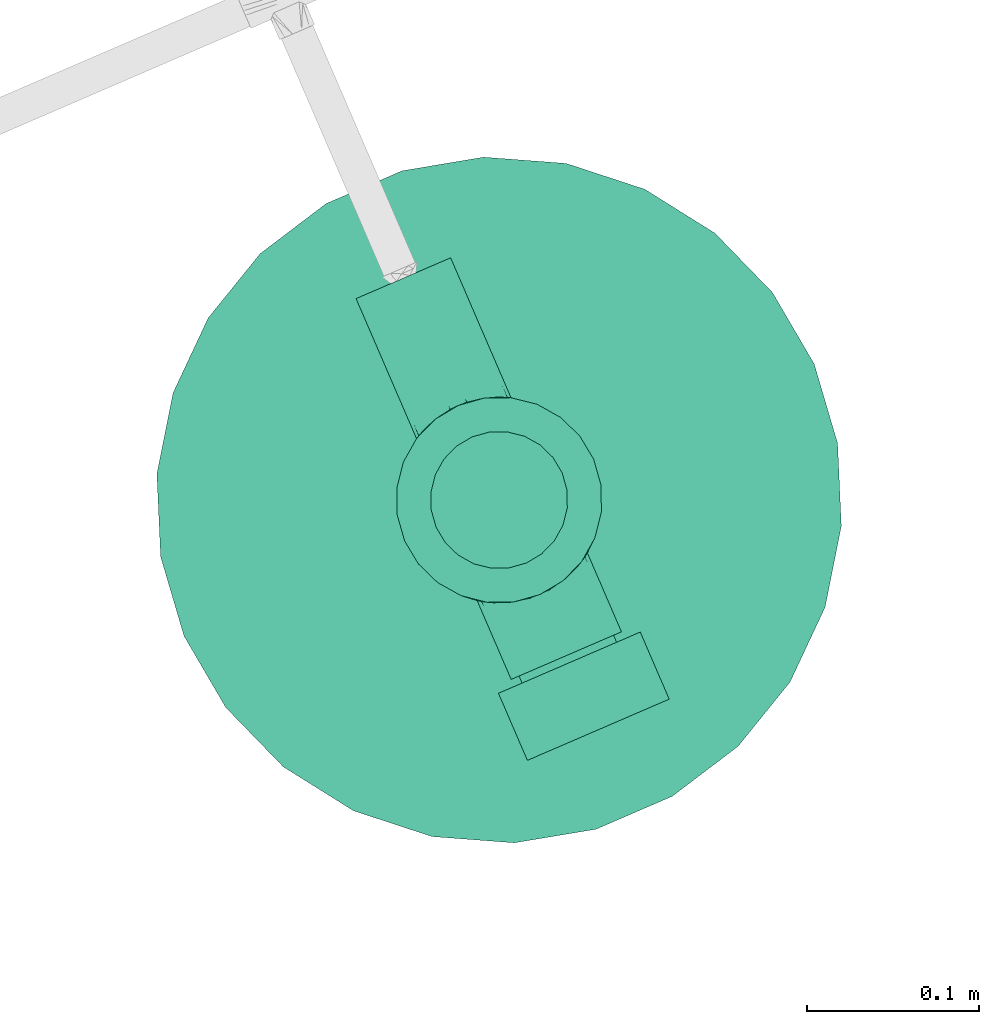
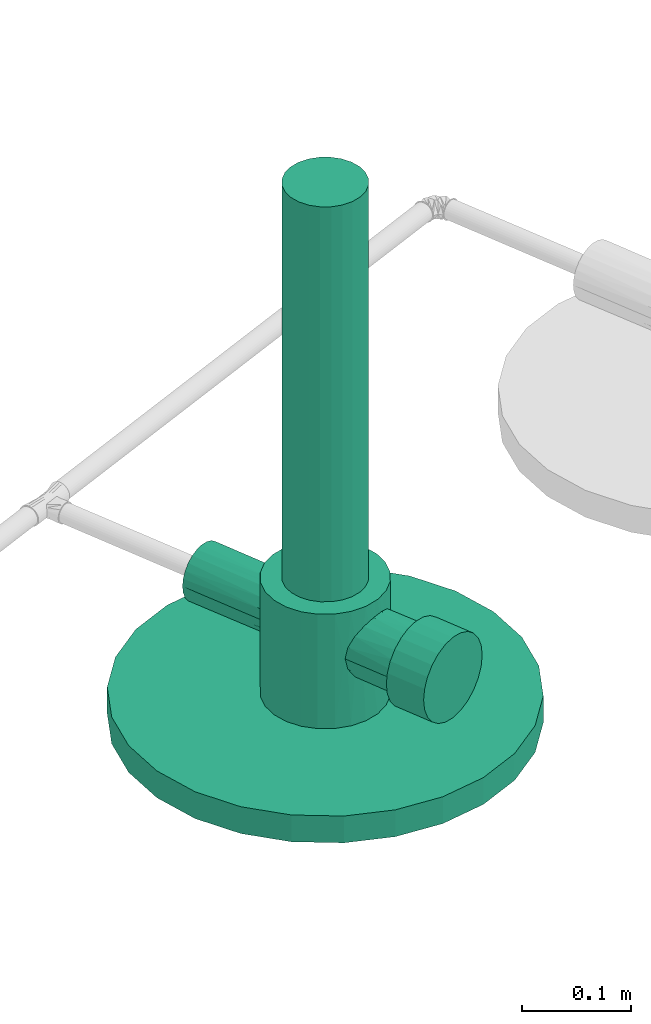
# One storey, part 14 of 26: 1 burner.
"""IFC4 building model written with IfcOpenShell, lengths in metres."""

from ifc_helpers import new_model, entity, si_unit, converted_unit, derived_unit, direction, frame, origin, place, context, subcontext, project, spatial, polygons, source, transform, mapped, material, type_object, type_shapes, element, save


model = new_model("IFC4")

# Units and contexts
model_context = context("Model", 3, precision=1e-05, world=origin(), true_north=direction((6.12323399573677e-17, 1.0)))
body_context = subcontext(model_context, "Body", "Model", "MODEL_VIEW")
ifc_project = project(units=[si_unit("LENGTHUNIT", "METRE"), si_unit("AREAUNIT", "SQUARE_METRE"), si_unit("VOLUMEUNIT", "CUBIC_METRE"), si_unit("PRESSUREUNIT", "PASCAL"), derived_unit("VOLUMETRICFLOWRATEUNIT", [(si_unit("LENGTHUNIT", "METRE", prefix="DECI"), 3), (si_unit("TIMEUNIT", "SECOND"), -1)]), converted_unit("PLANEANGLEUNIT", "DEGREE", entity("IfcPlaneAngleMeasure", 0.0174532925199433), si_unit("PLANEANGLEUNIT", "RADIAN"), dimensions=[0, 0, 0, 0, 0, 0, 0])], contexts=[model_context])

# Site, building, storey
site_placement = place(None, origin())
site = spatial("IfcSite", under=ifc_project, at=site_placement, Name="Default", CompositionType="ELEMENT")
building_placement = place(site_placement, frame((24.575451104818, -55.896759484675, 317.15), z_axis=(0.0, 0.0, 1.0), x_axis=(-0.396377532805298, 0.918087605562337, 0.0)))
building = spatial("IfcBuilding", under=site, at=building_placement, CompositionType="ELEMENT")
storey_placement = place(building_placement, origin())
storey = spatial("IfcBuildingStorey", under=building, at=storey_placement, Name="Nivel 1", CompositionType="ELEMENT", Elevation=0.0)

# Burner
ifc_material = material(Name="<Unnamed>")
burner_type = type_object("IfcBurnerType", Name="Mechero:Mechero", PredefinedType="NOTDEFINED", material=ifc_material)
shared_shape = source(origin(), body_context, "Body", "Tessellation", [
    polygons([(0.03, 0.140777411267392, 0.105540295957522), (0.0289777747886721, 0.140777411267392, 0.113304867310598), (0.0259807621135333, 0.140777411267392, 0.120540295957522), (0.0212132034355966, 0.140777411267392, 0.126753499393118), (0.0150000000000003, 0.140777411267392, 0.131521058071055), (0.00776457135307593, 0.140777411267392, 0.134518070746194), (3.24733641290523e-16, 0.140777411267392, 0.135540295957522), (-0.0077645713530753, 0.140777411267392, 0.134518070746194), (-0.0149999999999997, 0.140777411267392, 0.131521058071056), (-0.0212132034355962, 0.140777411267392, 0.126753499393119), (-0.025980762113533, 0.140777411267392, 0.120540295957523), (-0.0289777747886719, 0.140777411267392, 0.113304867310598), (-0.03, 0.140777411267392, 0.105540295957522), (-0.03, 0.0519615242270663, 0.105540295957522), (-0.0281488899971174, 0.0529871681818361, 0.115915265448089), (-0.0229729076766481, 0.0554278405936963, 0.124833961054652), (-0.0151160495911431, 0.058064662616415, 0.131453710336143), (-0.00529779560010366, 0.05976565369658, 0.135068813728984), (0.0052891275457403, 0.0597664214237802, 0.135070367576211), (0.015112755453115, 0.0580655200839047, 0.131455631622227), (0.0229650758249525, 0.0554310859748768, 0.124843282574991), (0.0281481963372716, 0.0529875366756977, 0.115917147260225), (0.03, 0.0519615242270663, 0.105540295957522), (0.0290740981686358, 0.052474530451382, 0.110728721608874), (0.0102009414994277, 0.0589159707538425, 0.133262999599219), (-0.0102069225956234, 0.0589151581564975, 0.133261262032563), (-4.33402718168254e-06, 0.0597660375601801, 0.135069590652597), (-0.0290744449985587, 0.0524743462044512, 0.110727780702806), (-0.028977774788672, 0.140777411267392, 0.0977757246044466), (-0.0259807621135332, 0.140777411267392, 0.0905402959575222), (-0.0212132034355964, 0.140777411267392, 0.0843270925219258), (-0.015, 0.140777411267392, 0.0795595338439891), (-0.00776457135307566, 0.140777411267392, 0.0765625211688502), (-4.89878376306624e-17, 0.140777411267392, 0.0755402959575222), (0.00776457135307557, 0.140777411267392, 0.0765625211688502), (0.0149999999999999, 0.140777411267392, 0.079559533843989), (0.0212132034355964, 0.140777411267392, 0.0843270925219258), (0.0259807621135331, 0.140777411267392, 0.0905402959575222), (0.028977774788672, 0.140777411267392, 0.0977757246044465), (0.0281481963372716, 0.0529875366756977, 0.0951634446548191), (0.0229650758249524, 0.0554310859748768, 0.0862373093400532), (0.0151127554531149, 0.0580655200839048, 0.079624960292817), (0.00528912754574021, 0.0597664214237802, 0.0760102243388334), (-0.00529779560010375, 0.05976565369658, 0.0760117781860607), (-0.0151160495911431, 0.058064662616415, 0.0796268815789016), (-0.0229729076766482, 0.0554278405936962, 0.0862466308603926), (-0.0281488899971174, 0.0529871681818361, 0.0951653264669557), (-0.0290744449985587, 0.0524743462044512, 0.100352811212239), (-0.0102069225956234, 0.0589151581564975, 0.0778193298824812), (0.0102009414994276, 0.0589159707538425, 0.0778175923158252), (-4.33402718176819e-06, 0.0597660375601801, 0.076011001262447), (0.0290740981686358, 0.052474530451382, 0.100351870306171), (-0.06, 1.938147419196e-16, 0.158062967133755), (-0.0579555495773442, -0.015529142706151, 0.158062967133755), (-0.0519615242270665, -0.0299999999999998, 0.158062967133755), (-0.042426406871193, -0.0424264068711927, 0.158062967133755), (-0.0300000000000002, -0.0519615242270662, 0.158062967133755), (-0.0155291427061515, -0.057955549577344, 0.158062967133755), (-2.79176681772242e-16, -0.06, 0.158062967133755), (0.015529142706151, -0.0579555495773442, 0.158062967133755), (0.0299999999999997, -0.0519615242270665, 0.158062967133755), (0.0424264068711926, -0.0424264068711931, 0.158062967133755), (0.0519615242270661, -0.0300000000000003, 0.158062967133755), (0.057955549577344, -0.0155291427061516, 0.158062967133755), (0.06, -5.06070118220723e-20, 0.158062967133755), (0.0579555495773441, 0.0155291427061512, 0.158062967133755), (0.0519615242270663, 0.03, 0.158062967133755), (0.0424264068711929, 0.0424264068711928, 0.158062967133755), (0.0300000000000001, 0.0519615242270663, 0.158062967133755), (0.0155291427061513, 0.0579555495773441, 0.158062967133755), (8.45989944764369e-17, 0.06, 0.158062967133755), (-0.0155291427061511, 0.0579555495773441, 0.158062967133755), (-0.0299999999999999, 0.0519615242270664, 0.158062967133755), (-0.0424264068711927, 0.042426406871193, 0.158062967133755), (-0.0519615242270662, 0.0300000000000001, 0.158062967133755), (-0.057955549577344, 0.0155291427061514, 0.158062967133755), (0.04, -2.58487131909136e-16, 0.158062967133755), (0.0386370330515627, -0.0103527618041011, 0.158062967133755), (0.0346410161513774, -0.0200000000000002, 0.158062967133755), (0.0282842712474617, -0.0282842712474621, 0.158062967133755), (0.0199999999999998, -0.0346410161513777, 0.158062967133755), (0.0103527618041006, -0.0386370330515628, 0.158062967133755), (-1.86117787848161e-16, -0.04, 0.158062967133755), (-0.010352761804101, -0.0386370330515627, 0.158062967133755), (-0.0200000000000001, -0.0346410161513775, 0.158062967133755), (-0.028284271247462, -0.0282842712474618, 0.158062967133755), (-0.0346410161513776, -0.0199999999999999, 0.158062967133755), (-0.0386370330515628, -0.0103527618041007, 0.158062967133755), (-0.04, -1.47007134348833e-16, 0.158062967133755), (-0.0386370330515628, 0.0103527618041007, 0.158062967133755), (-0.0346410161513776, 0.0199999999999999, 0.158062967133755), (-0.028284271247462, 0.0282842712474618, 0.158062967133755), (-0.0200000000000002, 0.0346410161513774, 0.158062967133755), (-0.010352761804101, 0.0386370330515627, 0.158062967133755), (-2.19957385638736e-16, 0.04, 0.158062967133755), (0.0103527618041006, 0.0386370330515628, 0.158062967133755), (0.0199999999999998, 0.0346410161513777, 0.158062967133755), (0.0282842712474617, 0.0282842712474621, 0.158062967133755), (0.0346410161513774, 0.0200000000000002, 0.158062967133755), (0.0386370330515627, 0.0103527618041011, 0.158062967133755), (-0.06, 1.67169389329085e-16, 0.03), (-0.057955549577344, 0.0155291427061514, 0.03), (-0.0519615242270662, 0.0300000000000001, 0.03), (-0.0424264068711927, 0.042426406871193, 0.03), (-0.0299999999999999, 0.0519615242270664, 0.03), (-0.0155291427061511, 0.0579555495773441, 0.03), (8.45989944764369e-17, 0.06, 0.03), (0.0155291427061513, 0.0579555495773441, 0.03), (0.0300000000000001, 0.0519615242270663, 0.03), (0.0424264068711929, 0.0424264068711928, 0.03), (0.0519615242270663, 0.03, 0.03), (0.0579555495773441, 0.0155291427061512, 0.03), (0.06, -3.34490599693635e-16, 0.03), (0.057955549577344, -0.0155291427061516, 0.03), (0.0519615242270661, -0.0300000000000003, 0.03), (0.0424264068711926, -0.0424264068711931, 0.03), (0.0299999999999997, -0.0519615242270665, 0.03), (0.015529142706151, -0.0579555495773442, 0.03), (-2.79176681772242e-16, -0.06, 0.03), (-0.0155291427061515, -0.057955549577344, 0.03), (-0.0300000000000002, -0.0519615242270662, 0.03), (-0.042426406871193, -0.0424264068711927, 0.03), (-0.0519615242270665, -0.0299999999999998, 0.03), (-0.0579555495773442, -0.015529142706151, 0.03), (-0.0350000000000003, -0.0487339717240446, 0.106389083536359), (-0.0328211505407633, -0.0502272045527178, 0.118545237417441), (-0.0268063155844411, -0.0536788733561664, 0.128892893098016), (-0.0176988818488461, -0.0573301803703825, 0.136584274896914), (-0.00622472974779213, -0.0596762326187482, 0.140831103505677), (0.00621395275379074, -0.0596773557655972, 0.140833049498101), (0.0176944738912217, -0.0573315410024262, 0.136586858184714), (0.0267976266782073, -0.0536832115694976, 0.12890323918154), (0.0328202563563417, -0.0502277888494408, 0.118547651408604), (0.0349999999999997, -0.0487339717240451, 0.106389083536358), (0.0328202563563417, -0.0502277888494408, 0.0942305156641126), (0.0267976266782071, -0.0536832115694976, 0.0838749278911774), (0.0176944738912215, -0.0573315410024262, 0.0761913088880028), (0.00621395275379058, -0.0596773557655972, 0.0719451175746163), (-0.00622472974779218, -0.0596762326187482, 0.0719470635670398), (-0.0176988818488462, -0.0573301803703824, 0.0761938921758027), (-0.0268063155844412, -0.0536788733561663, 0.0838852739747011), (-0.0328211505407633, -0.0502272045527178, 0.0942329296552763), (0.022764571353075, -0.0549585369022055, 0.158062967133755), (0.00776457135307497, -0.0589777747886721, 0.158062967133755), (-0.00776457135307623, -0.058977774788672, 0.158062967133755), (-0.0227645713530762, -0.054958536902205, 0.158062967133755), (-0.00776457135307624, -0.058977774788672, 0.03), (0.00776457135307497, -0.0589777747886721, 0.03), (-0.0119618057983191, -0.0585032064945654, 0.138707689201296), (-5.38849700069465e-06, -0.0596767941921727, 0.140832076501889), (0.0119542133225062, -0.0585044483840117, 0.138709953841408), (0.0191468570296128, -0.0564570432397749, 0.158062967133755), (0.00388228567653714, -0.0594888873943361, 0.158062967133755), (-0.00388228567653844, -0.059488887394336, 0.158062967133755), (-0.019146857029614, -0.0564570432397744, 0.158062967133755), (0.00310428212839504, -0.059677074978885, 0.140832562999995), (-0.0222525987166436, -0.0555045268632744, 0.132738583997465), (-0.011646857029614, -0.058466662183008, 0.158062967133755), (-0.00311505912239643, -0.0596765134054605, 0.140831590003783), (0.0116468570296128, -0.0584666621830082, 0.158062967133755), (0.0222460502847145, -0.0555073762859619, 0.132745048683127), (-0.0227645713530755, 0.0549585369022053, 0.158062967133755), (-0.00776457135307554, 0.0589777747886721, 0.158062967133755), (0.00776457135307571, 0.058977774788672, 0.158062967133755), (0.0227645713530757, 0.0549585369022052, 0.158062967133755), (-0.04, 1.29243565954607e-16, 0.6), (-0.0386370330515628, -0.0103527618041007, 0.6), (-0.0346410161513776, -0.0199999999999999, 0.6), (-0.028284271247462, -0.0282842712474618, 0.6), (-0.0200000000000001, -0.0346410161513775, 0.6), (-0.010352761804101, -0.0386370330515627, 0.6), (-1.86117787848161e-16, -0.04, 0.6), (0.0103527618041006, -0.0386370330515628, 0.6), (0.0199999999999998, -0.0346410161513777, 0.6), (0.0282842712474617, -0.0282842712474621, 0.6), (0.0346410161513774, -0.0200000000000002, 0.6), (0.0386370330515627, -0.0103527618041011, 0.6), (0.04, 0.0, 0.6), (0.0386370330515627, 0.0103527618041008, 0.6), (0.0346410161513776, 0.02, 0.6), (0.0282842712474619, 0.0282842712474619, 0.6), (0.02, 0.0346410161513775, 0.6), (0.0103527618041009, 0.0386370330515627, 0.6), (5.92192961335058e-17, 0.04, 0.6), (-0.0103527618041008, 0.0386370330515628, 0.6), (-0.0199999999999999, 0.0346410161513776, 0.6), (-0.0282842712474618, 0.028284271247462, 0.6), (-0.0346410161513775, 0.0200000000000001, 0.6), (-0.0386370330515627, 0.0103527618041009, 0.6), (0.03, -0.0987791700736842, 0.105540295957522), (0.0289777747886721, -0.0987791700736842, 0.113304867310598), (0.0259807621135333, -0.0987791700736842, 0.120540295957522), (0.0212132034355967, -0.0987791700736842, 0.126753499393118), (0.0150000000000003, -0.0987791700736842, 0.131521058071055), (0.00776457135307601, -0.0987791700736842, 0.134518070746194), (4.04669699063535e-16, -0.0987791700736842, 0.135540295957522), (-0.0077645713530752, -0.0987791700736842, 0.134518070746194), (-0.0149999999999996, -0.0987791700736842, 0.131521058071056), (-0.0212132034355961, -0.0987791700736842, 0.126753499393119), (-0.0259807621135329, -0.0987791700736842, 0.120540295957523), (-0.0289777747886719, -0.0987791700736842, 0.113304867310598), (-0.03, -0.0987791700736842, 0.105540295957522), (-0.03, -0.103264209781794, 0.105540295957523), (-0.0289777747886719, -0.103264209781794, 0.113304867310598), (-0.0259807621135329, -0.103264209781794, 0.120540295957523), (-0.0212132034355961, -0.103264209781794, 0.126753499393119), (-0.0149999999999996, -0.103264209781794, 0.131521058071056), (-0.0077645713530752, -0.103264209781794, 0.134518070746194), (4.04669699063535e-16, -0.103264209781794, 0.135540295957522), (0.00776457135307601, -0.103264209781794, 0.134518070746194), (0.0150000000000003, -0.103264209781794, 0.131521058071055), (0.0212132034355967, -0.103264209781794, 0.126753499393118), (0.0259807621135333, -0.103264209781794, 0.120540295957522), (0.0289777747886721, -0.103264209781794, 0.113304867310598), (0.03, -0.103264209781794, 0.105540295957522), (-0.028977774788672, -0.0987791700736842, 0.0977757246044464), (-0.0259807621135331, -0.0987791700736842, 0.0905402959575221), (-0.0212132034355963, -0.0987791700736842, 0.0843270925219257), (-0.0149999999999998, -0.0987791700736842, 0.079559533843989), (-0.00776457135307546, -0.0987791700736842, 0.0765625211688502), (1.64174983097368e-16, -0.0987791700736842, 0.0755402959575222), (0.00776457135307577, -0.0987791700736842, 0.0765625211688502), (0.0150000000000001, -0.0987791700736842, 0.0795595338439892), (0.0212132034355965, -0.0987791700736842, 0.0843270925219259), (0.0259807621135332, -0.0987791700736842, 0.0905402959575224), (0.0289777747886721, -0.0987791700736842, 0.0977757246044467), (0.0289777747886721, -0.103264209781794, 0.0977757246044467), (0.0259807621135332, -0.103264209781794, 0.0905402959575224), (0.0212132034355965, -0.103264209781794, 0.0843270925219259), (0.0150000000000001, -0.103264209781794, 0.0795595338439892), (0.00776457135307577, -0.103264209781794, 0.0765625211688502), (1.64174983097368e-16, -0.103264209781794, 0.0755402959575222), (-0.00776457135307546, -0.103264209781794, 0.0765625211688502), (-0.0149999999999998, -0.103264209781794, 0.079559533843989), (-0.0212132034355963, -0.103264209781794, 0.0843270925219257), (-0.0259807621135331, -0.103264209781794, 0.0905402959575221), (-0.028977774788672, -0.103264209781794, 0.0977757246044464), (0.035, -0.0987791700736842, 0.106389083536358), (0.0338074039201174, -0.0987791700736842, 0.115447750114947), (0.0303108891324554, -0.0987791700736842, 0.123889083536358), (0.0247487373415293, -0.0987791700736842, 0.131137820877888), (0.0175000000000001, -0.0987791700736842, 0.136699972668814), (0.00905866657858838, -0.0987791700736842, 0.140196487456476), (1.6073808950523e-16, -0.0987791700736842, 0.141389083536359), (-0.00905866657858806, -0.0987791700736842, 0.140196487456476), (-0.0174999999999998, -0.0987791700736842, 0.136699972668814), (-0.024748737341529, -0.0987791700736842, 0.131137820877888), (-0.0303108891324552, -0.0987791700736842, 0.123889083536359), (-0.0338074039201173, -0.0987791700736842, 0.115447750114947), (-0.035, -0.0987791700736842, 0.106389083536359), (-0.0338074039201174, -0.0987791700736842, 0.0973304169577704), (-0.0303108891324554, -0.0987791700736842, 0.0888890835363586), (-0.0247487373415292, -0.0987791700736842, 0.0816403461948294), (-0.0175, -0.0987791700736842, 0.0760781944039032), (-0.00905866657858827, -0.0987791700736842, 0.0725816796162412), (-5.07593966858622e-17, -0.0987791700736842, 0.0713890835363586), (0.00905866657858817, -0.0987791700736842, 0.0725816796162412), (0.0174999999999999, -0.0987791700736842, 0.0760781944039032), (0.0247487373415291, -0.0987791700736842, 0.0816403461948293), (0.0303108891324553, -0.0987791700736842, 0.0888890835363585), (0.0338074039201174, -0.0987791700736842, 0.0973304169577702), (0.0339101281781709, -0.0494808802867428, 0.112468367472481), (-0.0339105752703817, -0.0494805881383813, 0.1124671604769), (-0.0339105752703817, -0.0494805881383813, 0.100311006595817), (-0.0119618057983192, -0.0585032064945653, 0.0740704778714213), (-5.38849700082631e-06, -0.0596767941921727, 0.0719460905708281), (0.0119542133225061, -0.0585044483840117, 0.0740682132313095), (0.0339101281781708, -0.0494808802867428, 0.100309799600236), (-0.045, -0.145831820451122, 0.106435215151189), (-0.0434666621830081, -0.145831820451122, 0.0947883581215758), (-0.0389711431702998, -0.145831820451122, 0.0839352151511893), (-0.0318198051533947, -0.145831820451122, 0.0746154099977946), (-0.0225000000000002, -0.145831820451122, 0.0674640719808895), (-0.0116468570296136, -0.145831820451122, 0.0629685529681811), (-2.11497486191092e-16, -0.145831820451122, 0.0614352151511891), (0.0116468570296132, -0.145831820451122, 0.062968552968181), (0.0224999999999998, -0.145831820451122, 0.0674640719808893), (0.0318198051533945, -0.145831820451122, 0.0746154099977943), (0.0389711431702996, -0.145831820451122, 0.0839352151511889), (0.043466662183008, -0.145831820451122, 0.0947883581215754), (0.045, -0.145831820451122, 0.106435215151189), (0.0434666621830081, -0.145831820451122, 0.118082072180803), (0.0389711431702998, -0.145831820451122, 0.128935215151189), (0.0318198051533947, -0.145831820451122, 0.138255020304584), (0.0225, -0.145831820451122, 0.145406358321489), (0.0116468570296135, -0.145831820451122, 0.149901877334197), (5.92192961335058e-17, -0.145831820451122, 0.151435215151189), (-0.0116468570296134, -0.145831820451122, 0.149901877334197), (-0.0224999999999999, -0.145831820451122, 0.145406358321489), (-0.0318198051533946, -0.145831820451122, 0.138255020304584), (-0.0389711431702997, -0.145831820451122, 0.128935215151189), (-0.043466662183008, -0.145831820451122, 0.118082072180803), (-0.045, -0.103264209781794, 0.106435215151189), (-0.043466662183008, -0.103264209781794, 0.118082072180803), (-0.0389711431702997, -0.103264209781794, 0.128935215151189), (-0.0318198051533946, -0.103264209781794, 0.138255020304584), (-0.0224999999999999, -0.103264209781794, 0.145406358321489), (-0.0116468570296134, -0.103264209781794, 0.149901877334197), (5.92192961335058e-17, -0.103264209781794, 0.151435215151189), (0.0116468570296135, -0.103264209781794, 0.149901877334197), (0.0225, -0.103264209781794, 0.145406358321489), (0.0318198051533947, -0.103264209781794, 0.138255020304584), (0.0389711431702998, -0.103264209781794, 0.128935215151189), (0.0434666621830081, -0.103264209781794, 0.118082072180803), (0.045, -0.103264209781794, 0.106435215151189), (0.043466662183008, -0.103264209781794, 0.0947883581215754), (0.0389711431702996, -0.103264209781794, 0.0839352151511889), (0.0318198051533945, -0.103264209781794, 0.0746154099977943), (0.0224999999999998, -0.103264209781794, 0.0674640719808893), (0.0116468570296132, -0.103264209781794, 0.062968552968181), (-2.11497486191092e-16, -0.103264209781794, 0.0614352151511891), (-0.0116468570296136, -0.103264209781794, 0.0629685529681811), (-0.0225000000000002, -0.103264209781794, 0.0674640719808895), (-0.0318198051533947, -0.103264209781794, 0.0746154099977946), (-0.0389711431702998, -0.103264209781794, 0.0839352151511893), (-0.0434666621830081, -0.103264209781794, 0.0947883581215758)], [[[22, 2, 3]], [[20, 4, 5]], [[3, 4, 21]], [[6, 25, 5]], [[6, 19, 25]], [[2, 22, 24]], [[26, 9, 17]], [[22, 3, 21]], [[21, 4, 20]], [[13, 28, 12]], [[20, 5, 25]], [[24, 1, 2]], [[7, 18, 27, 19]], [[7, 19, 6]], [[10, 17, 9]], [[15, 11, 12]], [[10, 11, 16]], [[13, 14, 28]], [[18, 7, 8]], [[9, 26, 8]], [[26, 18, 8]], [[16, 17, 10]], [[11, 15, 16]], [[28, 15, 12]], [[24, 23, 1]], [[33, 44, 49]], [[45, 31, 32]], [[1, 52, 39]], [[33, 49, 32]], [[50, 36, 42]], [[29, 47, 48]], [[47, 29, 30]], [[47, 30, 46]], [[46, 30, 31]], [[46, 31, 45]], [[45, 32, 49]], [[48, 14, 13]], [[34, 43, 51, 44]], [[34, 44, 33]], [[37, 42, 36]], [[40, 38, 39]], [[37, 38, 41]], [[1, 23, 52]], [[43, 34, 35]], [[36, 50, 35]], [[50, 43, 35]], [[41, 42, 37]], [[38, 40, 41]], [[52, 40, 39]], [[48, 13, 29]], [[61, 62, 63, 64, 65, 66, 67, 68, 69, 165, 70, 164, 71, 163, 72, 162, 73, 74, 75, 76, 53, 54, 55, 56, 57, 146, 155, 58, 158, 145, 154, 59, 153, 144, 160, 60, 152, 143], [81, 82, 83, 84, 85, 86, 87, 88, 89, 90, 91, 92, 93, 94, 95, 96, 97, 98, 99, 100, 77, 78, 79, 80]], [[173, 174, 175, 176, 177, 178, 179, 180, 181, 182, 183, 184, 185, 186, 187, 188, 189, 166, 167, 168, 169, 170, 171, 172]], [[112, 113, 114, 115, 116, 117, 118, 148, 119, 147, 120, 121, 122, 123, 124, 101, 102, 103, 104, 105, 106, 107, 108, 109, 110, 111]], [[55, 123, 122, 56]], [[87, 86, 169, 168]], [[53, 101, 124, 54]], [[89, 88, 167, 166]], [[123, 55, 54, 124]], [[88, 87, 168, 167]], [[122, 142, 264, 125]], [[122, 121, 142]], [[140, 121, 120]], [[139, 120, 147, 119]], [[128, 58, 155]], [[140, 141, 121]], [[120, 139, 265, 140]], [[146, 127, 157]], [[144, 151, 60, 160]], [[121, 141, 142]], [[130, 144, 153]], [[125, 56, 122]], [[152, 161, 143]], [[56, 125, 263, 126]], [[149, 145, 158, 58]], [[59, 156, 153]], [[155, 157, 128]], [[126, 127, 57]], [[146, 57, 127]], [[149, 129, 145]], [[59, 159, 150, 156]], [[126, 57, 56]], [[161, 152, 131]], [[119, 138, 266, 139]], [[154, 129, 159]], [[118, 117, 137]], [[58, 128, 149]], [[118, 137, 267, 138]], [[136, 137, 117]], [[117, 135, 136]], [[118, 138, 119, 148]], [[115, 63, 62, 116]], [[80, 79, 176, 175]], [[114, 64, 63, 115]], [[79, 78, 177, 176]], [[116, 134, 268, 135]], [[116, 135, 117]], [[62, 134, 116]], [[129, 154, 145]], [[114, 113, 65, 64]], [[78, 77, 178, 177]], [[132, 143, 161]], [[60, 131, 152]], [[155, 146, 157]], [[156, 130, 153]], [[60, 151, 131]], [[132, 61, 143]], [[61, 133, 62]], [[133, 61, 132]], [[62, 133, 262, 134]], [[151, 144, 130]], [[159, 59, 154]], [[110, 68, 67, 111]], [[99, 98, 181, 180]], [[66, 65, 113, 112]], [[178, 77, 100, 179]], [[23, 69, 68, 110, 109]], [[98, 97, 182, 181]], [[111, 67, 66, 112]], [[179, 100, 99, 180]], [[108, 107, 43]], [[108, 43, 50, 42]], [[40, 109, 41]], [[42, 41, 108]], [[41, 109, 108]], [[109, 40, 52, 23]], [[69, 23, 24, 22]], [[20, 70, 165]], [[21, 165, 22]], [[165, 69, 22]], [[25, 19, 164]], [[25, 70, 20]], [[107, 44, 51, 43]], [[106, 45, 49, 44]], [[106, 44, 107]], [[71, 19, 27, 18]], [[46, 45, 106]], [[105, 47, 46]], [[70, 25, 164]], [[46, 106, 105]], [[19, 71, 164]], [[103, 75, 74, 104]], [[92, 91, 188, 187]], [[102, 76, 75, 103]], [[91, 90, 189, 188]], [[105, 104, 74, 73, 14]], [[93, 92, 187, 186]], [[105, 14, 48, 47]], [[73, 15, 28, 14]], [[102, 101, 53, 76]], [[90, 89, 166, 189]], [[15, 162, 16]], [[16, 162, 17]], [[20, 165, 21]], [[71, 18, 163]], [[26, 72, 163]], [[162, 72, 17]], [[163, 18, 26]], [[73, 162, 15]], [[72, 26, 17]], [[85, 84, 171, 170]], [[86, 85, 170, 169]], [[83, 172, 171, 84]], [[81, 80, 175, 174]], [[82, 81, 174, 173]], [[82, 173, 172, 83]], [[97, 96, 183, 182]], [[95, 184, 183, 96]], [[94, 93, 186, 185]], [[94, 185, 184, 95]], [[33, 32, 31, 30, 29, 13, 12, 11, 10, 9, 8, 7, 6, 5, 4, 3, 2, 1, 39, 38, 37, 36, 35, 34]], [[301, 302, 303, 304, 305, 306, 307, 308, 309, 310, 311, 312, 313, 314, 315, 316, 293, 294, 295, 296, 297, 298, 299, 300], [211, 210, 209, 208, 207, 206, 205, 204, 203, 237, 236, 235, 234, 233, 232, 231, 230, 229, 228, 227, 215, 214, 213, 212]], [[213, 214, 191, 192]], [[303, 283, 282, 304]], [[214, 215, 190, 191]], [[304, 282, 281, 305]], [[211, 212, 193, 194]], [[285, 284, 302, 301]], [[192, 193, 212, 213]], [[303, 302, 284, 283]], [[210, 211, 194, 195]], [[286, 285, 301, 300]], [[209, 210, 195, 196]], [[286, 300, 299, 287]], [[198, 207, 208, 197]], [[288, 298, 297, 289]], [[199, 206, 207, 198]], [[296, 290, 289, 297]], [[204, 205, 200, 201]], [[291, 295, 294, 292]], [[199, 200, 205, 206]], [[296, 295, 291, 290]], [[203, 204, 201, 202]], [[292, 294, 293, 269]], [[197, 208, 209, 196]], [[288, 287, 299, 298]], [[216, 237, 203, 202]], [[316, 270, 269, 293]], [[217, 236, 237, 216]], [[315, 271, 270, 316]], [[234, 235, 218, 219]], [[314, 313, 273, 272]], [[217, 218, 235, 236]], [[315, 314, 272, 271]], [[233, 234, 219, 220]], [[274, 273, 313, 312]], [[232, 233, 220, 221]], [[275, 274, 312, 311]], [[223, 230, 231, 222]], [[276, 310, 309, 277]], [[224, 229, 230, 223]], [[308, 278, 277, 309]], [[227, 228, 225, 226]], [[279, 307, 306, 280]], [[224, 225, 228, 229]], [[308, 307, 279, 278]], [[215, 227, 226, 190]], [[280, 306, 305, 281]], [[222, 231, 232, 221]], [[310, 276, 275, 311]], [[246, 247, 248, 249, 250, 251, 252, 253, 254, 255, 256, 257, 258, 259, 260, 261, 238, 239, 240, 241, 242, 243, 244, 245], [198, 197, 196, 195, 194, 193, 192, 191, 190, 226, 225, 224, 223, 222, 221, 220, 219, 218, 217, 216, 202, 201, 200, 199]], [[276, 277, 278, 279, 280, 281, 282, 283, 284, 285, 286, 287, 288, 289, 290, 291, 292, 269, 270, 271, 272, 273, 274, 275]], [[238, 262, 239]], [[262, 238, 134]], [[151, 130, 243]], [[242, 151, 243]], [[240, 133, 132]], [[241, 132, 161, 131]], [[249, 126, 263]], [[151, 242, 131]], [[240, 239, 133]], [[131, 242, 241]], [[241, 240, 132]], [[244, 130, 156, 150, 159, 129]], [[244, 129, 245]], [[243, 130, 244]], [[262, 133, 239]], [[149, 128, 246]], [[248, 127, 126]], [[245, 129, 149]], [[247, 128, 157, 127]], [[125, 250, 263]], [[245, 149, 246]], [[128, 247, 246]], [[248, 247, 127]], [[126, 249, 248]], [[249, 263, 250]], [[250, 264, 251]], [[254, 265, 255]], [[252, 142, 141]], [[253, 141, 140]], [[142, 252, 251]], [[265, 254, 140]], [[264, 250, 125]], [[141, 253, 252]], [[139, 256, 255]], [[265, 139, 255]], [[140, 254, 253]], [[264, 142, 251]], [[257, 138, 267]], [[256, 139, 266, 138]], [[256, 138, 257]], [[261, 135, 268]], [[267, 137, 258]], [[260, 136, 135]], [[137, 136, 259]], [[134, 238, 268]], [[257, 267, 258]], [[137, 259, 258]], [[260, 259, 136]], [[135, 261, 260]], [[261, 268, 238]]], closed=True),
    polygons([(-0.2, 6.46256136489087e-16, 0.03), (-0.194188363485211, -0.0478631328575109, 0.03), (-0.177091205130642, -0.0929446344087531, 0.03), (-0.149702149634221, -0.132624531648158, 0.03), (-0.113612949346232, -0.164596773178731, 0.03), (-0.070920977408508, -0.187003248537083, 0.03), (-0.0241073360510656, -0.198541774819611, 0.03), (0.0241073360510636, -0.198541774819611, 0.03), (0.0709209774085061, -0.187003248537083, 0.03), (0.11361294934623, -0.164596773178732, 0.03), (0.149702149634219, -0.13262453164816, 0.03), (0.177091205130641, -0.0929446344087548, 0.03), (0.19418836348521, -0.0478631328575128, 0.03), (0.2, 3.83067160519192e-20, 0.03), (0.19418836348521, 0.0478631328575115, 0.03), (0.177091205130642, 0.0929446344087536, 0.03), (0.14970214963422, 0.132624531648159, 0.03), (0.113612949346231, 0.164596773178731, 0.03), (0.0709209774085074, 0.187003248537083, 0.03), (0.0241073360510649, 0.198541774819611, 0.03), (-0.0241073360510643, 0.198541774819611, 0.03), (-0.0709209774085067, 0.187003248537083, 0.03), (-0.113612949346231, 0.164596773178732, 0.03), (-0.14970214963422, 0.132624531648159, 0.03), (-0.177091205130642, 0.0929446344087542, 0.03), (-0.19418836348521, 0.0478631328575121, 0.03), (-0.2, 6.46256136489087e-16, 0.0), (-0.19418836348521, 0.0478631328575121, 0.0), (-0.177091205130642, 0.0929446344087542, 0.0), (-0.14970214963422, 0.132624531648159, 0.0), (-0.113612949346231, 0.164596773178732, 0.0), (-0.0709209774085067, 0.187003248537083, 0.0), (-0.0241073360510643, 0.198541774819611, 0.0), (0.0241073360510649, 0.198541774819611, 0.0), (0.0709209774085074, 0.187003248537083, 0.0), (0.113612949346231, 0.164596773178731, 0.0), (0.14970214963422, 0.132624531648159, 0.0), (0.177091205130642, 0.0929446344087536, 0.0), (0.19418836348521, 0.0478631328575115, 0.0), (0.2, -1.29239735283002e-15, 0.0), (0.19418836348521, -0.0478631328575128, 0.0), (0.177091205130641, -0.0929446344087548, 0.0), (0.149702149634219, -0.13262453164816, 0.0), (0.11361294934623, -0.164596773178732, 0.0), (0.0709209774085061, -0.187003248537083, 0.0), (0.0241073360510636, -0.198541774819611, 0.0), (-0.0241073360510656, -0.198541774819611, 0.0), (-0.070920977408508, -0.187003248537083, 0.0), (-0.113612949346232, -0.164596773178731, 0.0), (-0.149702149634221, -0.132624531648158, 0.0), (-0.177091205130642, -0.0929446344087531, 0.0), (-0.194188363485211, -0.0478631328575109, 0.0)], [[[9, 10, 11, 12, 13, 14, 15, 16, 17, 18, 19, 20, 21, 22, 23, 24, 25, 26, 1, 2, 3, 4, 5, 6, 7, 8]], [[34, 35, 36, 37, 38, 39, 40, 41, 42, 43, 44, 45, 46, 47, 48, 49, 50, 51, 52, 27, 28, 29, 30, 31, 32, 33]], [[52, 2, 1, 27]], [[51, 3, 2, 52]], [[5, 4, 50, 49]], [[49, 48, 6, 5]], [[51, 50, 4, 3]], [[47, 7, 6, 48]], [[47, 46, 8, 7]], [[45, 9, 8, 46]], [[44, 10, 9, 45]], [[13, 12, 42, 41]], [[41, 40, 14, 13]], [[44, 43, 11, 10]], [[43, 42, 12, 11]], [[39, 15, 14, 40]], [[38, 16, 15, 39]], [[18, 17, 37, 36]], [[36, 35, 19, 18]], [[38, 37, 17, 16]], [[34, 20, 19, 35]], [[34, 33, 21, 20]], [[23, 22, 32, 31]], [[33, 32, 22, 21]], [[29, 28, 26, 25]], [[24, 30, 29, 25]], [[23, 31, 30, 24]], [[26, 28, 27, 1]]], closed=True),
])
type_shapes(burner_type, [shared_shape])
burner_placement = place(storey_placement, frame((34.6479372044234, 39.8338766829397, 0.75), z_axis=(0.0, 0.0, 1.0), x_axis=(0.0, -1.0, 0.0)))
element("IfcBurner", 1, at=burner_placement, inside=storey, type_object=burner_type, material=ifc_material, Name="Mechero:Mechero", ObjectType="Mechero:Mechero", PredefinedType="NOTDEFINED", context=body_context, shape_type="MappedRepresentation", body=[
    mapped(shared_shape, transform((0.0, 0.0, 0.0), scale=1.0)),
])

save(model, "model.ifc")
